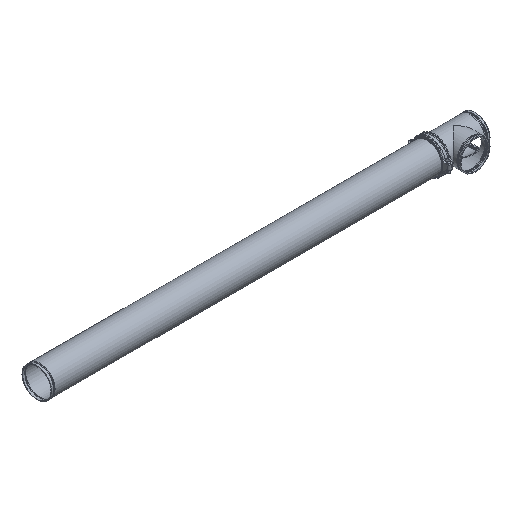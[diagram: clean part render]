
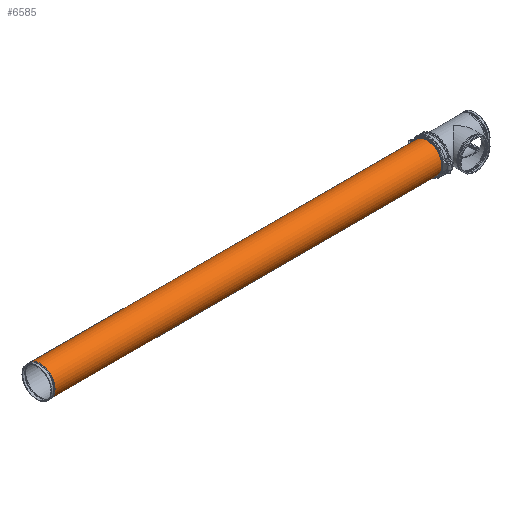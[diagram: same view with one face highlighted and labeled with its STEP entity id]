
A CAD part, isometric view. The second image highlights one B-rep face of the part: STEP entity #6585.
In plain terms, the highlighted cylindrical face has radius 228.6 mm (diameter 457.2 mm), a full revolution.
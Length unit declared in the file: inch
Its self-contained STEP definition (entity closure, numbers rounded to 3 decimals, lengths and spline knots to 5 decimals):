
#310=LINE('',#9818,#690);
#690=VECTOR('',#7874,9.);
#1069=CYLINDRICAL_SURFACE('',#7047,9.);
#1261=FACE_OUTER_BOUND('',#1603,.T.);
#1603=EDGE_LOOP('',(#4145,#4146,#4147,#4148,#4149,#4150));
#1979=CIRCLE('',#7045,9.);
#1980=CIRCLE('',#7046,9.);
#1981=CIRCLE('',#7048,9.);
#1982=CIRCLE('',#7049,9.);
#2408=VERTEX_POINT('',#9808);
#2409=VERTEX_POINT('',#9809);
#2410=VERTEX_POINT('',#9814);
#2411=VERTEX_POINT('',#9815);
#3109=EDGE_CURVE('',#2408,#2409,#1979,.T.);
#3110=EDGE_CURVE('',#2409,#2408,#1980,.T.);
#3112=EDGE_CURVE('',#2410,#2411,#1981,.T.);
#3113=EDGE_CURVE('',#2411,#2410,#1982,.T.);
#3114=EDGE_CURVE('',#2411,#2409,#310,.T.);
#4145=ORIENTED_EDGE('',*,*,#3112,.F.);
#4146=ORIENTED_EDGE('',*,*,#3113,.F.);
#4147=ORIENTED_EDGE('',*,*,#3114,.T.);
#4148=ORIENTED_EDGE('',*,*,#3110,.T.);
#4149=ORIENTED_EDGE('',*,*,#3109,.T.);
#4150=ORIENTED_EDGE('',*,*,#3114,.F.);
#6585=ADVANCED_FACE('',(#1261),#1069,.T.);
#7045=AXIS2_PLACEMENT_3D('',#9810,#7863,#7864);
#7046=AXIS2_PLACEMENT_3D('',#9811,#7865,#7866);
#7047=AXIS2_PLACEMENT_3D('',#9813,#7868,#7869);
#7048=AXIS2_PLACEMENT_3D('',#9816,#7870,#7871);
#7049=AXIS2_PLACEMENT_3D('',#9817,#7872,#7873);
#7863=DIRECTION('center_axis',(1.,0.,0.));
#7864=DIRECTION('ref_axis',(0.,1.,0.));
#7865=DIRECTION('center_axis',(1.,0.,0.));
#7866=DIRECTION('ref_axis',(0.,1.,0.));
#7868=DIRECTION('center_axis',(1.,0.,0.));
#7869=DIRECTION('ref_axis',(0.,1.,0.));
#7870=DIRECTION('center_axis',(1.,0.,0.));
#7871=DIRECTION('ref_axis',(0.,1.,0.));
#7872=DIRECTION('center_axis',(1.,0.,0.));
#7873=DIRECTION('ref_axis',(0.,1.,0.));
#7874=DIRECTION('',(-1.,0.,0.));
#9808=CARTESIAN_POINT('',(-117.88023,9.,0.));
#9809=CARTESIAN_POINT('',(-117.88023,-9.,0.));
#9810=CARTESIAN_POINT('Origin',(-117.88023,0.,
0.));
#9811=CARTESIAN_POINT('Origin',(-117.88023,0.,
0.));
#9813=CARTESIAN_POINT('Origin',(0.,0.,
0.));
#9814=CARTESIAN_POINT('',(117.88023,9.,0.));
#9815=CARTESIAN_POINT('',(117.88023,-9.,0.));
#9816=CARTESIAN_POINT('Origin',(117.88023,0.,0.));
#9817=CARTESIAN_POINT('Origin',(117.88023,0.,0.));
#9818=CARTESIAN_POINT('',(0.,-9.,0.));
